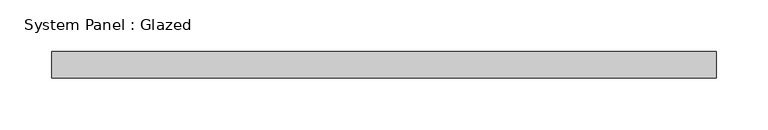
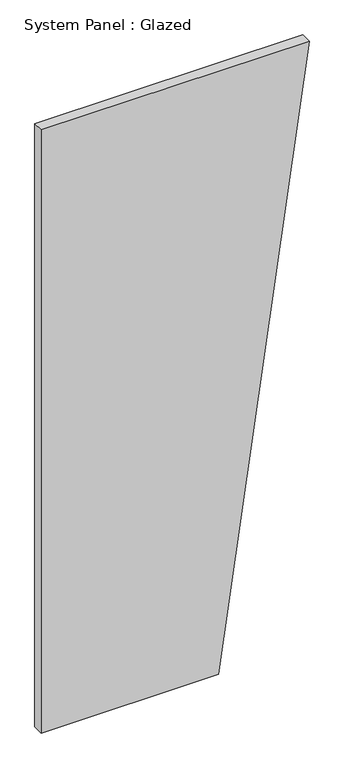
"""IFC4 building model written with IfcOpenShell, lengths in millimetres: plate geometry, System Panel : Glazed."""

from ifc_helpers import new_model, si_unit, frame, origin, place, context, project, spatial, polyline, outline, extrude, source, transform, mapped, element, save


def system_panel_glazed_e1c1aaf6(model_context):
    return source(origin(), model_context, "Body", "SweptSolid", [
        extrude(outline(polyline([(0.0, -320.8855182), (0.0, 103.8401631), (1524.0, 320.8855182), (1524.0, -320.8855182), (0.0, -320.8855182)])), frame((0.0, 19.05, 0.0), z_axis=(0.0, 1.0, 0.0), x_axis=(0.0, 0.0, 1.0)), (0.0, 0.0, 1.0), 25.4),
    ])


if __name__ == "__main__":
    model = new_model("IFC4")
    model_context = context("Model", 3, world=origin())
    ifc_project = project(units=[si_unit("LENGTHUNIT", "METRE", prefix="MILLI")], contexts=[model_context])
    site = spatial("IfcSite", under=ifc_project)
    building = spatial("IfcBuilding", under=site)
    placement = place(None, origin())
    system_panel_glazed_shape = system_panel_glazed_e1c1aaf6(model_context)
    element("IfcPlate", 1, ObjectType="System Panel : Glazed", at=placement, inside=building, context=model_context, shape_type="MappedRepresentation", body=[
        mapped(system_panel_glazed_shape, transform((0.0, 0.0, 0.0), x_axis=(1.0, 0.0, 0.0), y_axis=(0.0, 1.0, 0.0), z_axis=(0.0, 0.0, 1.0))),
    ])
    save(model, "model.ifc")
